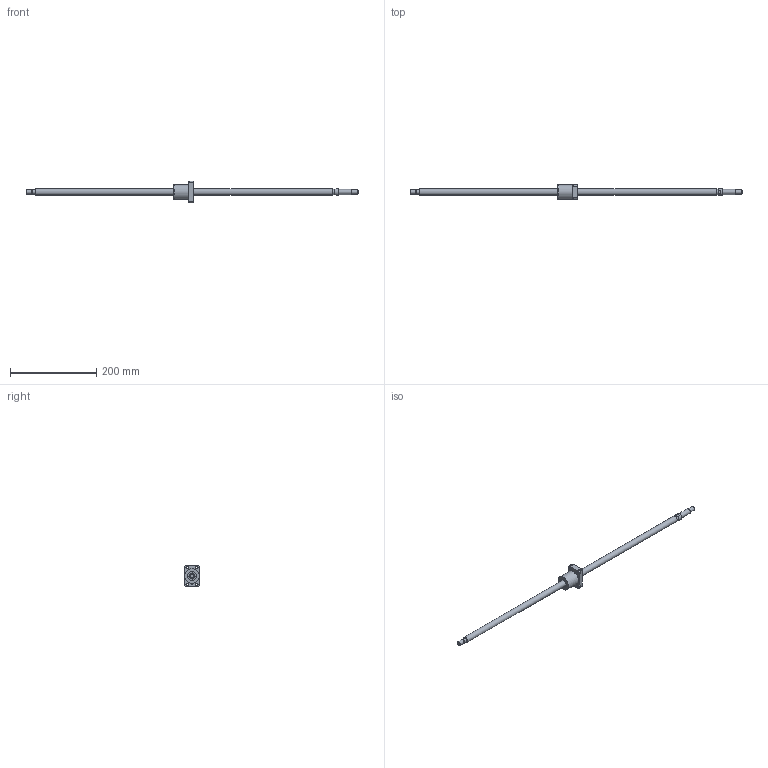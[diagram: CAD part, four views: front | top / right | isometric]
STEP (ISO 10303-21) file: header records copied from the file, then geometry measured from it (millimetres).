
FILE_DESCRIPTION(/* description */ ('STEP AP203'),/* implementation_level */ '2;1');
FILE_NAME(/* name */ 'BNK1408-2.5RRG0+771LC5Y(367.50)',/* time_stamp */ '2024-07-09T09:18:01+02:00',/* author */ ('License CC BY-ND 4.0'),/* organization */ ('CADENAS'),/* preprocessor_version */ 'ST-DEVELOPER v19.3',/* originating_system */ 'PARTsolutions',/* authorisation */ ' ');
FILE_SCHEMA (('CONFIG_CONTROL_DESIGN'));
Length unit declared in the file: millimetre
Products named in the file (3): BNK1408-2.5RRG0+771LC5Y(367.50); BNK 1408-2.5RRG0+771LC5Y Shaft; BNK 1408-2.5RRG0+771LC5YRR0 Nut
Assembly tree (2 placements, depth 2):
  BNK1408-2.5RRG0+771LC5Y(367.50)
    BNK 1408-2.5RRG0+771LC5Y Shaft
    BNK 1408-2.5RRG0+771LC5YRR0 Nut
Bounding box: 771 x 34 x 50 mm (x, y, z)
Volume: 153275.9 mm3; surface area: 45556.6 mm2
Topology: 2 solids, 2 shells, 74 faces, 159 edges, 102 vertices
Faces by surface type: plane 28, cylinder 27, cone 17, torus 2
Full cylindrical faces by diameter (mm): 4.917 x2, 5.5 x4, 9.5 x4, 9.6 x1, 10 x3, 12 x2, 14 x2, 15 x1, 21 x2, 33.4 x1, 34 x1
Entity records: 1940 total; most frequent: CARTESIAN_POINT 349, DIRECTION 336, ORIENTED_EDGE 242, AXIS2_PLACEMENT_3D 155, FACE_BOUND 134, EDGE_LOOP 133, EDGE_CURVE 121, VERTEX_POINT 99
